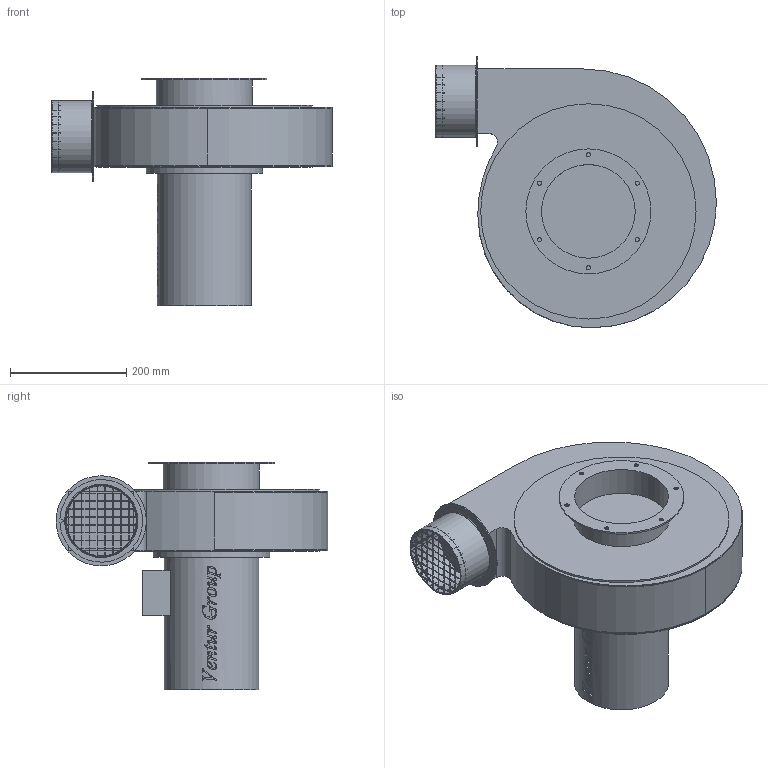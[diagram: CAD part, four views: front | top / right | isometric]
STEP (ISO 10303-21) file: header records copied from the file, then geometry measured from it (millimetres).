
FILE_DESCRIPTION(/* description */ (''),/* implementation_level */ '2;1');
FILE_NAME(/* name */ 'E:\Mariusz\Modele uproszczone\GMT-K\GMT-K_100 RD90 42552310\GMT-K_100 RD90 42552310.stp',/* time_stamp */ '2018-07-12T09:23:52+02:00',/* author */ ('M.Janczarek'),/* organization */ (''),/* preprocessor_version */ 'ST-DEVELOPER v16.5',/* originating_system */ 'Autodesk Inventor 2017',/* authorisation */ '');
FILE_SCHEMA (('AUTOMOTIVE_DESIGN { 1 0 10303 214 3 1 1 }'));
Length unit declared in the file: millimetre
Products named in the file (1): GMT-K_100_75 42552310
Bounding box: 482.5 x 467 x 391.5 mm (x, y, z)
Volume: 21247332.6 mm3; surface area: 758088.1 mm2
Topology: 1 solids, 1 shells, 951 faces, 2827 edges, 1854 vertices
Faces by surface type: plane 413, bspline 369, cylinder 165, torus 4
Full cylindrical faces by diameter (mm): 1 x25, 7.1 x6, 155 x1, 161 x1, 162 x1, 165 x1, 200 x1, 215 x1, 370 x2
Entity records: 38076 total; most frequent: CARTESIAN_POINT 14376, ORIENTED_EDGE 5358, DIRECTION 3713, EDGE_CURVE 2679, VERTEX_POINT 1787, LINE 1533, VECTOR 1533, EDGE_LOOP 1212
